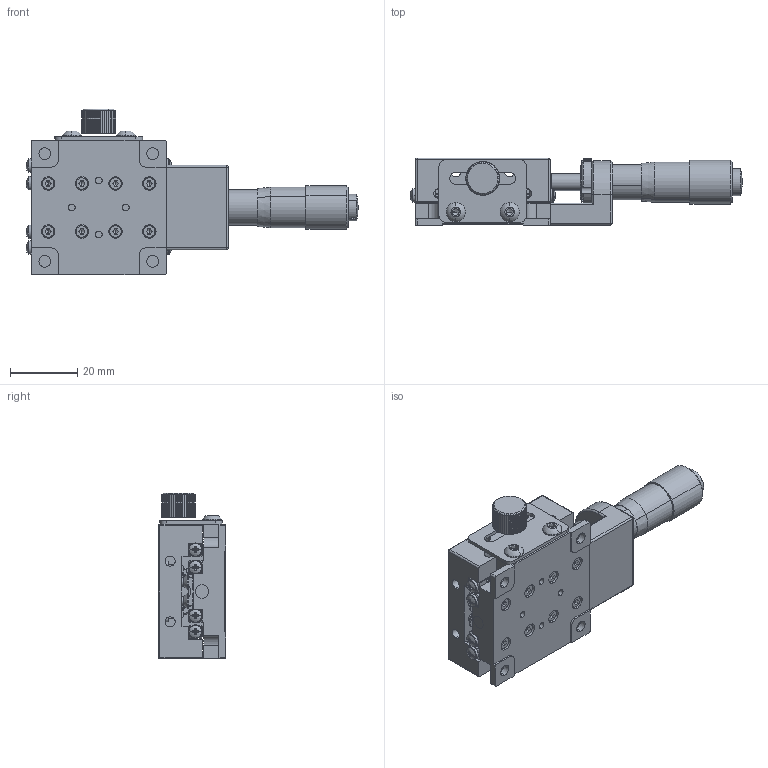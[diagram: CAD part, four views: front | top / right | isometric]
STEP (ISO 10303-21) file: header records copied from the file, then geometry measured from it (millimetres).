
FILE_DESCRIPTION (( 'STEP AP203' ), '1' );
FILE_NAME ('M-TCSJ40X-05-BL.STEP', '2019-10-09T08:52:17', ( '¦K¬P' ), ( '' ), 'SwSTEP 2.0', 'SolidWorks 2019', '' );
FILE_SCHEMA (( 'CONFIG_CONTROL_DESIGN' ));
Length unit declared in the file: millimetre
Products named in the file (1): M-TCSJ40X-05-BL
Bounding box: 98.53 x 20 x 49.2 mm (x, y, z)
Surface area: 19988.3 mm2 (no closed solid volume)
Topology: 0 solids, 57 shells, 1026 faces, 3103 edges, 2002 vertices
Faces by surface type: plane 600, cylinder 279, cone 99, sphere 28, torus 20
Entity records: 34516 total; most frequent: CARTESIAN_POINT 6634, DIRECTION 6030, ORIENTED_EDGE 5285, EDGE_CURVE 3057, AXIS2_PLACEMENT_3D 2094, VERTEX_POINT 2002, VECTOR 1842, LINE 1842
